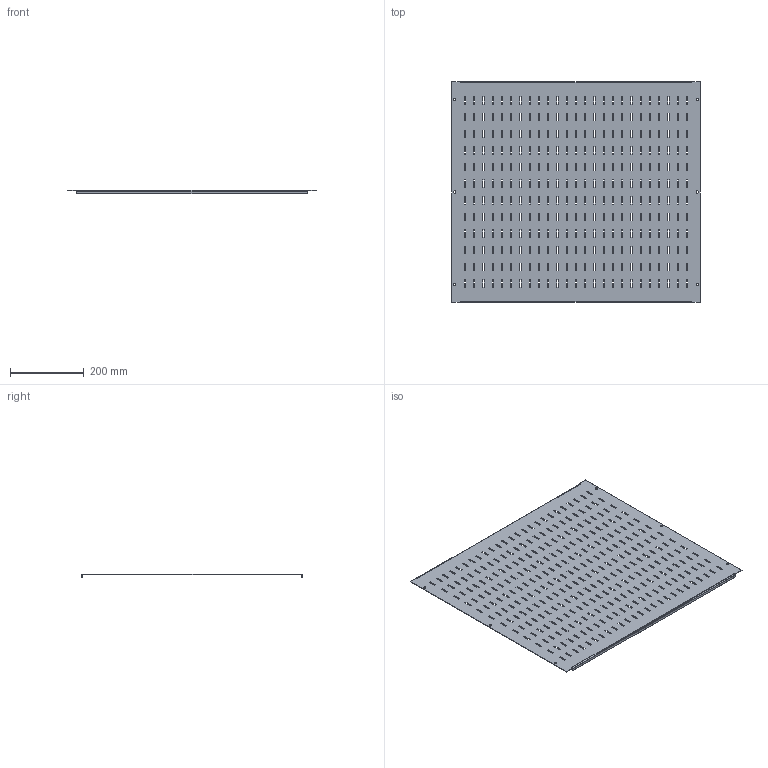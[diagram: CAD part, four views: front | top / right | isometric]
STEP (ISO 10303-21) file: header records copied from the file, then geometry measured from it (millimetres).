
FILE_DESCRIPTION(('STEP AP203'), '1');
FILE_NAME('Ïëàñòðîí ïåðôîðèðîâàííûé 600õ800 ìì OptiBox M 419466 ÊÝÀÇ', '', ('UNSPECIFIED'), ('UNSPECIFIED'), 'C3D Converter', 'C3D Toolkit', '');
FILE_SCHEMA(('CONFIG_CONTROL_DESIGN'));
Length unit declared in the file: millimetre
Bounding box: 672 x 597 x 10 mm (x, y, z)
Volume: 540868.9 mm3; surface area: 796627.3 mm2
Topology: 1 solids, 1 shells, 1240 faces, 3698 edges, 2460 vertices
Faces by surface type: plane 1230, cylinder 10
Full cylindrical faces by diameter (mm): 6.3 x6
Entity records: 41988 total; most frequent: CARTESIAN_POINT 7393, ORIENTED_EDGE 7384, DIRECTION 6194, EDGE_CURVE 3692, LINE 3672, VECTOR 3672, VERTEX_POINT 2460, EDGE_LOOP 1858
